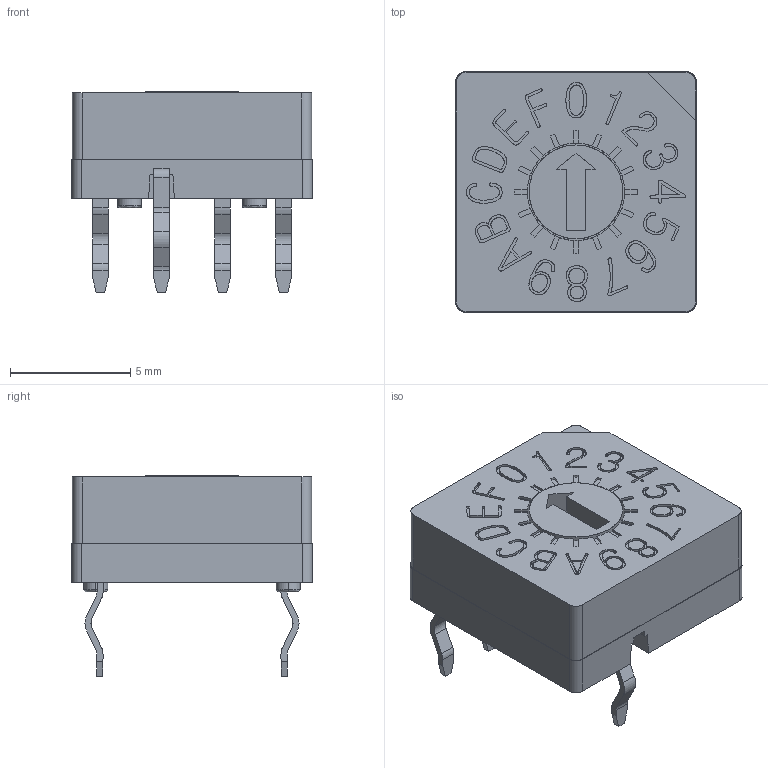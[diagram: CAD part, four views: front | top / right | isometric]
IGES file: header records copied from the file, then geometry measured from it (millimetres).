
Start section: SolidWorks IGES file using analytic representation for surfaces
Global section: file name: C:\Documents and Settings\020401\桌面\DRS 3016.IGS,1; native system: 5HSolidWorks 2008; preprocessor: SolidWorks 2008; author: 020401; date: 140214.090222; units: millimetre
Bounding box: 10 x 10 x 8.34 mm (x, y, z)
Surface area: 1243.2 mm2 (no closed solid volume)
Topology: 0 solids, 0 shells, 1245 faces, 11623 edges, 11623 vertices
Faces by surface type: bspline 1028, revolution 217
